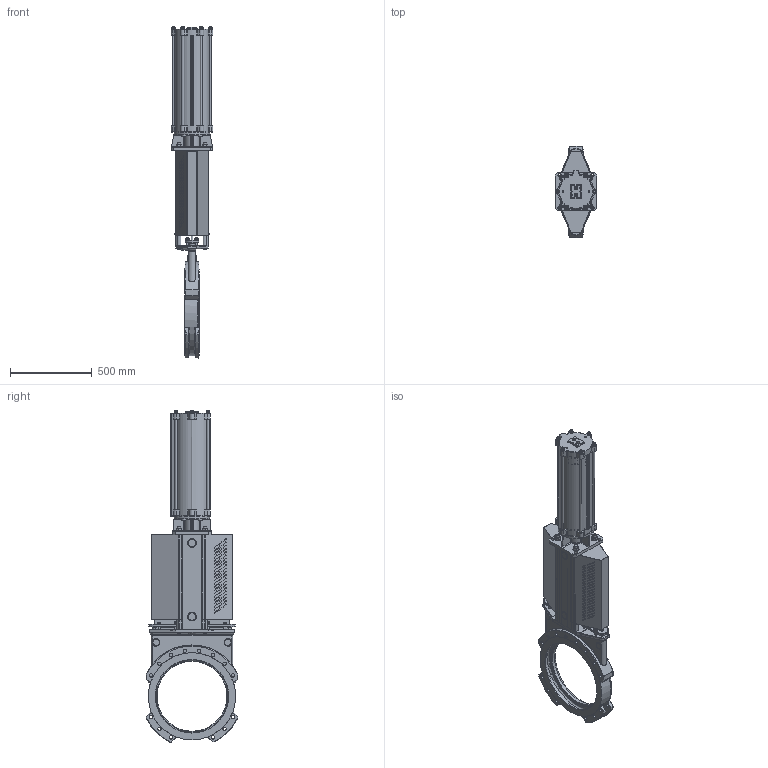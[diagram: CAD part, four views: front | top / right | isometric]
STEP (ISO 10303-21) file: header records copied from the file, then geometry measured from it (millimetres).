
FILE_DESCRIPTION(/* description */ (''),/* implementation_level */ '2;1');
FILE_NAME(/* name */ 'F:\Emir\3D-block special\MV VALVE\PNEUMATIC ACTUATOR\MV-DN450-PN10-FRSC200-450.stp',/* time_stamp */ '2018-05-08T15:22:08+02:00',/* author */ ('emimus'),/* organization */ (''),/* preprocessor_version */ 'ST-DEVELOPER v17',/* originating_system */ 'Autodesk Inventor 2018',/* authorisation */ '');
FILE_SCHEMA (('CONFIG_CONTROL_DESIGN'));
Products named in the file (1): MV-DN450-PN10-FRSC200-450
Bounding box: 256 x 560 x 2035 mm (x, y, z)
Volume: 25774730.9 mm3; surface area: 5694376.8 mm2
Topology: 1 solids, 1 shells, 3543 faces, 9117 edges, 5680 vertices
Faces by surface type: plane 1286, cylinder 1074, bspline 356, torus 331, cone 304, sphere 192
Full cylindrical faces by diameter (mm): 4.2 x24, 4.5 x12, 4.917 x7, 5 x2, 6.647 x6, 7.5 x4, 8 x4, 8.376 x4, 9.5 x2, 10 x9, 10.106 x2, 12 x24, 13 x20, 15 x9, 15.24 x4, 17 x4, 18 x2, 18.631 x2, 20 x16, 20.752 x28, 21 x8, 24 x19, 28 x1, 33 x1, 36 x2, 37 x4, 40 x13, 40.1 x1, 40.2 x2, 44 x6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
Entity records: 123825 total; most frequent: CARTESIAN_POINT 37353, DIRECTION 18458, ORIENTED_EDGE 18126, EDGE_CURVE 9063, AXIS2_PLACEMENT_3D 7446, VERTEX_POINT 5678, EDGE_LOOP 4107, CIRCLE 4009
